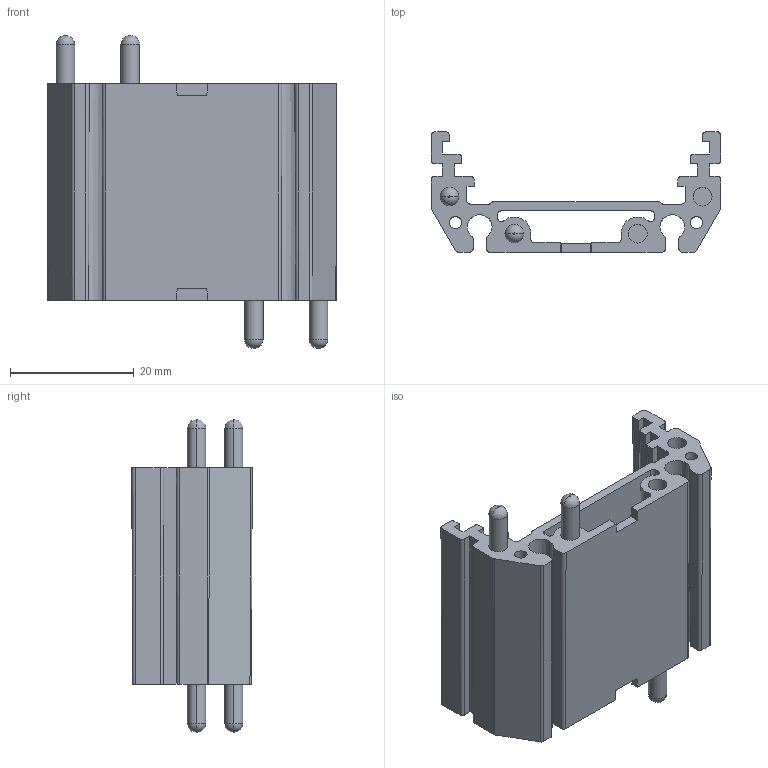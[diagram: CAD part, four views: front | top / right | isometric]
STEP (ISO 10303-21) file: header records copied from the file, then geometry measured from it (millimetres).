
FILE_DESCRIPTION (( 'STEP AP203' ), '1' );
FILE_NAME ('RT-043-3.STEP', '2024-12-03T13:32:08', ( '' ), ( '' ), 'SwSTEP 2.0', 'SolidWorks 2021', '' );
FILE_SCHEMA (( 'CONFIG_CONTROL_DESIGN' ));
Length unit declared in the file: millimetre
Products named in the file (1): RT-043-3
Bounding box: 46.9 x 19.5 x 50.6 mm (x, y, z)
Volume: 9532.7 mm3; surface area: 11357.3 mm2
Topology: 1 solids, 1 shells, 144 faces, 400 edges, 264 vertices
Faces by surface type: plane 72, cylinder 30, bspline 20, cone 14, torus 8
Entity records: 5097 total; most frequent: CARTESIAN_POINT 1433, ORIENTED_EDGE 800, DIRECTION 674, EDGE_CURVE 400, VERTEX_POINT 264, LINE 256, VECTOR 256, AXIS2_PLACEMENT_3D 209
